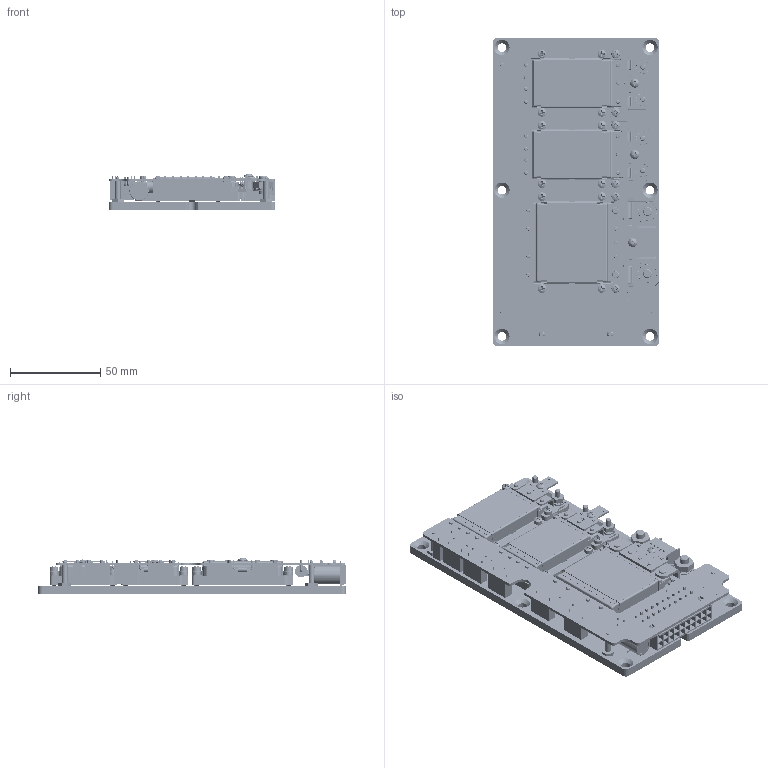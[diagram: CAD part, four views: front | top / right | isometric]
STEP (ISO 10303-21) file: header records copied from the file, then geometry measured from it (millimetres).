
FILE_DESCRIPTION (( 'STEP AP214' ), '1' );
FILE_NAME ('VA-B-LUG-3OUT.STEP', '2011-02-18T23:30:11', ( 'Vicor Employee' ), ( 'Vicor Corporation' ), 'SwSTEP 2.0', 'SolidWorks 2011', '' );
FILE_SCHEMA (( 'AUTOMOTIVE_DESIGN' ));
Length unit declared in the file: inch
Products named in the file (1): VA-B-LUG-3OUT
Bounding box: 92.28 x 170.51 x 20.26 mm (x, y, z)
Volume: 133067.1 mm3; surface area: 126846.5 mm2
Topology: 1 solids, 1 shells, 7425 faces, 20162 edges, 12937 vertices
Faces by surface type: plane 4188, cylinder 2018, bspline 545, cone 466, torus 118, sphere 90
Entity records: 359824 total; most frequent: CARTESIAN_POINT 79349, ORIENTED_EDGE 40228, DIRECTION 36127, EDGE_CURVE 20114, VERTEX_POINT 12937, LINE 12567, VECTOR 12567, AXIS2_PLACEMENT_3D 11780
